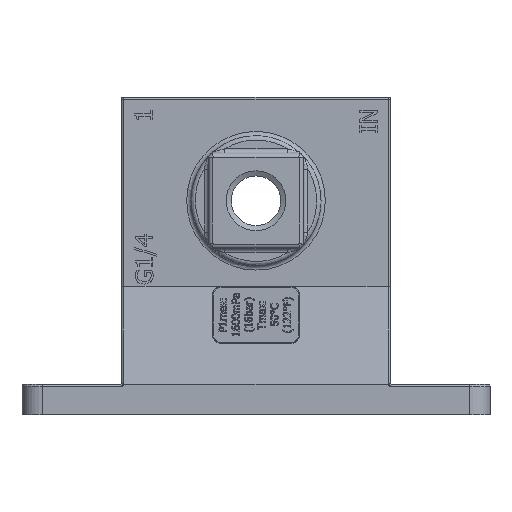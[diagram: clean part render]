
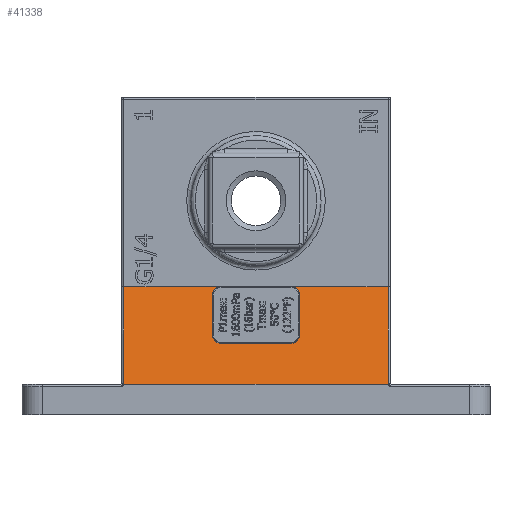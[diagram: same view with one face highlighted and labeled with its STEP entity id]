
A CAD part, front view. The second image highlights one B-rep face of the part: STEP entity #41338.
In plain terms, the highlighted planar face has unit normal (0, -0.978, 0.208).
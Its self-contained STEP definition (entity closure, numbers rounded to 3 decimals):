
#583=ELLIPSE('',#43373,2.147,2.1);
#584=ELLIPSE('',#43377,2.147,2.1);
#586=ELLIPSE('',#43382,2.147,2.1);
#588=ELLIPSE('',#43384,2.147,2.1);
#1350=B_SPLINE_CURVE_WITH_KNOTS('',3,(#62402,#62403,#62404,#62405,#62406,
#62407,#62408,#62409,#62410,#62411),.UNSPECIFIED.,.F.,.F.,(4,2,2,2,4),(0.407,
0.41,0.41,0.411,0.411),
 .UNSPECIFIED.);
#1351=B_SPLINE_CURVE_WITH_KNOTS('',3,(#62417,#62418,#62419,#62420,#62421,
#62422,#62423,#62424,#62425,#62426),.UNSPECIFIED.,.F.,.F.,(4,2,2,2,4),(0.199,
0.199,0.2,0.2,0.203),
 .UNSPECIFIED.);
#3835=LINE('',#62276,#7210);
#3837=LINE('',#62317,#7212);
#3839=LINE('',#62399,#7214);
#3840=LINE('',#62428,#7215);
#3841=LINE('',#62430,#7216);
#3842=LINE('',#62432,#7217);
#3843=LINE('',#62434,#7218);
#3844=LINE('',#62435,#7219);
#7210=VECTOR('',#47599,9.201);
#7212=VECTOR('',#47611,16.);
#7214=VECTOR('',#47625,9.201);
#7215=VECTOR('',#47634,21.86);
#7216=VECTOR('',#47635,23.087);
#7217=VECTOR('',#47636,61.);
#7218=VECTOR('',#47637,23.087);
#7219=VECTOR('',#47638,21.86);
#9807=PLANE('',#43390);
#11438=FACE_OUTER_BOUND('',#13799,.T.);
#13799=EDGE_LOOP('',(#29832,#29833,#29834,#29835,#29836,#29837,#29838,#29839,
#29840,#29841,#29842,#29843,#29844,#29845));
#17873=VERTEX_POINT('',#62255);
#17874=VERTEX_POINT('',#62269);
#17876=VERTEX_POINT('',#62274);
#17878=VERTEX_POINT('',#62309);
#17880=VERTEX_POINT('',#62315);
#17881=VERTEX_POINT('',#62349);
#17882=VERTEX_POINT('',#62378);
#17883=VERTEX_POINT('',#62395);
#17884=VERTEX_POINT('',#62401);
#17886=VERTEX_POINT('',#62416);
#17887=VERTEX_POINT('',#62427);
#17888=VERTEX_POINT('',#62429);
#17889=VERTEX_POINT('',#62431);
#17890=VERTEX_POINT('',#62433);
#22272=EDGE_CURVE('',#17874,#17873,#583,.T.);
#22274=EDGE_CURVE('',#17876,#17874,#3835,.T.);
#22277=EDGE_CURVE('',#17878,#17876,#584,.T.);
#22280=EDGE_CURVE('',#17880,#17878,#3837,.T.);
#22283=EDGE_CURVE('',#17881,#17880,#586,.T.);
#22286=EDGE_CURVE('',#17882,#17883,#588,.T.);
#22288=EDGE_CURVE('',#17883,#17881,#3839,.T.);
#22289=EDGE_CURVE('',#17884,#17873,#1350,.T.);
#22292=EDGE_CURVE('',#17882,#17886,#1351,.T.);
#22293=EDGE_CURVE('',#17886,#17887,#3840,.T.);
#22294=EDGE_CURVE('',#17888,#17887,#3841,.T.);
#22295=EDGE_CURVE('',#17889,#17888,#3842,.T.);
#22296=EDGE_CURVE('',#17890,#17889,#3843,.T.);
#22297=EDGE_CURVE('',#17890,#17884,#3844,.T.);
#29832=ORIENTED_EDGE('',*,*,#22272,.F.);
#29833=ORIENTED_EDGE('',*,*,#22274,.F.);
#29834=ORIENTED_EDGE('',*,*,#22277,.F.);
#29835=ORIENTED_EDGE('',*,*,#22280,.F.);
#29836=ORIENTED_EDGE('',*,*,#22283,.F.);
#29837=ORIENTED_EDGE('',*,*,#22288,.F.);
#29838=ORIENTED_EDGE('',*,*,#22286,.F.);
#29839=ORIENTED_EDGE('',*,*,#22292,.T.);
#29840=ORIENTED_EDGE('',*,*,#22293,.T.);
#29841=ORIENTED_EDGE('',*,*,#22294,.F.);
#29842=ORIENTED_EDGE('',*,*,#22295,.F.);
#29843=ORIENTED_EDGE('',*,*,#22296,.F.);
#29844=ORIENTED_EDGE('',*,*,#22297,.T.);
#29845=ORIENTED_EDGE('',*,*,#22289,.T.);
#41338=ADVANCED_FACE('',(#11438),#9807,.F.);
#43373=AXIS2_PLACEMENT_3D('',#62271,#47593,#47594);
#43377=AXIS2_PLACEMENT_3D('',#62311,#47603,#47604);
#43382=AXIS2_PLACEMENT_3D('',#62351,#47615,#47616);
#43384=AXIS2_PLACEMENT_3D('',#62396,#47619,#47620);
#43390=AXIS2_PLACEMENT_3D('',#62415,#47632,#47633);
#47593=DIRECTION('center_axis',(0.,-0.978,
0.208));
#47594=DIRECTION('ref_axis',(0.,0.208,0.978));
#47599=DIRECTION('',(0.,0.208,0.978));
#47603=DIRECTION('center_axis',(0.,-0.978,
0.208));
#47604=DIRECTION('ref_axis',(0.,-0.208,-0.978));
#47611=DIRECTION('',(1.,0.,0.));
#47615=DIRECTION('center_axis',(0.,-0.978,
0.208));
#47616=DIRECTION('ref_axis',(0.,-0.208,-0.978));
#47619=DIRECTION('center_axis',(0.,-0.978,
0.208));
#47620=DIRECTION('ref_axis',(0.,0.208,0.978));
#47625=DIRECTION('',(0.,-0.208,-0.978));
#47632=DIRECTION('center_axis',(0.,0.978,
-0.208));
#47633=DIRECTION('ref_axis',(-1.,0.,0.));
#47634=DIRECTION('',(-1.,0.,0.));
#47635=DIRECTION('',(0.,0.208,0.978));
#47636=DIRECTION('',(-1.,0.,0.));
#47637=DIRECTION('',(0.,-0.208,-0.978));
#47638=DIRECTION('',(-1.,0.,0.));
#62255=CARTESIAN_POINT('',(-3.396,-6.252,-43.227));
#62269=CARTESIAN_POINT('',(-1.9,-6.68,-45.239));
#62271=CARTESIAN_POINT('Origin',(-4.,-6.68,-45.239));
#62274=CARTESIAN_POINT('',(-1.9,-8.593,-54.239));
#62276=CARTESIAN_POINT('',(-1.9,-10.037,-61.033));
#62309=CARTESIAN_POINT('',(-4.,-9.039,-56.339));
#62311=CARTESIAN_POINT('Origin',(-4.,-8.593,-54.239));
#62315=CARTESIAN_POINT('',(-20.,-9.039,-56.339));
#62317=CARTESIAN_POINT('',(-1.5,-9.039,-56.339));
#62349=CARTESIAN_POINT('',(-22.1,-8.593,-54.239));
#62351=CARTESIAN_POINT('Origin',(-20.,-8.593,-54.239));
#62378=CARTESIAN_POINT('',(-20.604,-6.252,-43.227));
#62395=CARTESIAN_POINT('',(-22.1,-6.68,-45.239));
#62396=CARTESIAN_POINT('Origin',(-20.,-6.68,-45.239));
#62399=CARTESIAN_POINT('',(-22.1,-8.715,-54.814));
#62401=CARTESIAN_POINT('',(-3.36,-6.25,-43.218));
#62402=CARTESIAN_POINT('Ctrl Pts',(-3.36,-6.25,
-43.218));
#62403=CARTESIAN_POINT('Ctrl Pts',(-3.369,-6.25,-43.218));
#62404=CARTESIAN_POINT('Ctrl Pts',(-3.381,-6.25,
-43.218));
#62405=CARTESIAN_POINT('Ctrl Pts',(-3.391,-6.251,
-43.222));
#62406=CARTESIAN_POINT('Ctrl Pts',(-3.393,-6.251,
-43.223));
#62407=CARTESIAN_POINT('Ctrl Pts',(-3.395,-6.252,
-43.225));
#62408=CARTESIAN_POINT('Ctrl Pts',(-3.396,-6.252,
-43.226));
#62409=CARTESIAN_POINT('Ctrl Pts',(-3.396,-6.252,
-43.227));
#62410=CARTESIAN_POINT('Ctrl Pts',(-3.396,-6.252,
-43.227));
#62411=CARTESIAN_POINT('Ctrl Pts',(-3.396,-6.252,
-43.227));
#62415=CARTESIAN_POINT('Origin',(19.,-11.05,-65.8));
#62416=CARTESIAN_POINT('',(-20.64,-6.25,-43.218));
#62417=CARTESIAN_POINT('Ctrl Pts',(-20.604,-6.252,
-43.227));
#62418=CARTESIAN_POINT('Ctrl Pts',(-20.604,-6.252,
-43.227));
#62419=CARTESIAN_POINT('Ctrl Pts',(-20.604,-6.252,
-43.227));
#62420=CARTESIAN_POINT('Ctrl Pts',(-20.604,-6.252,
-43.226));
#62421=CARTESIAN_POINT('Ctrl Pts',(-20.605,-6.252,
-43.225));
#62422=CARTESIAN_POINT('Ctrl Pts',(-20.607,-6.251,
-43.223));
#62423=CARTESIAN_POINT('Ctrl Pts',(-20.609,-6.251,
-43.222));
#62424=CARTESIAN_POINT('Ctrl Pts',(-20.619,-6.25,
-43.218));
#62425=CARTESIAN_POINT('Ctrl Pts',(-20.631,-6.25,
-43.218));
#62426=CARTESIAN_POINT('Ctrl Pts',(-20.64,-6.25,
-43.218));
#62427=CARTESIAN_POINT('',(-42.5,-6.25,-43.218));
#62428=CARTESIAN_POINT('',(19.,-6.25,-43.218));
#62429=CARTESIAN_POINT('',(-42.5,-11.05,-65.8));
#62430=CARTESIAN_POINT('',(-42.5,-10.879,-64.997));
#62431=CARTESIAN_POINT('',(18.5,-11.05,-65.8));
#62432=CARTESIAN_POINT('',(3.5,-11.05,-65.8));
#62433=CARTESIAN_POINT('',(18.5,-6.25,-43.218));
#62434=CARTESIAN_POINT('',(18.5,-4.138,-33.28));
#62435=CARTESIAN_POINT('',(19.,-6.25,-43.218));
